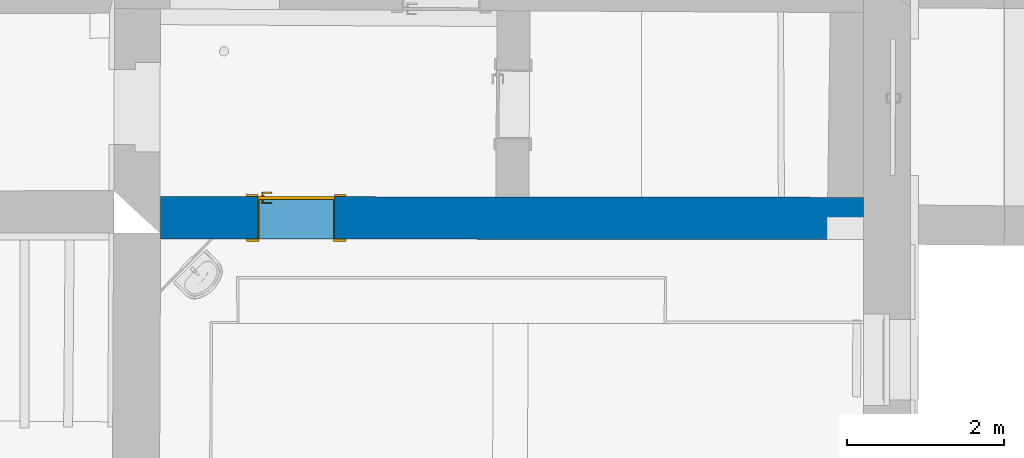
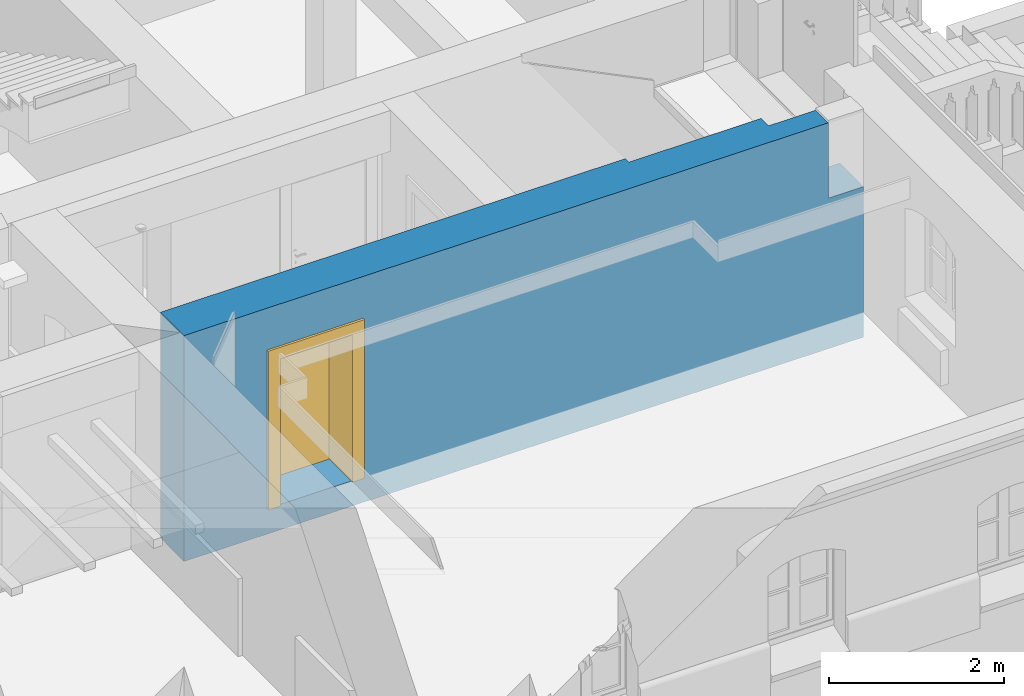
# One storey, part 104 of 196: 1 door, 1 wall, 1 opening.
"""IFC2X3 building model written with IfcOpenShell, lengths in metres."""

from ifc_helpers import new_model, entity, si_unit, converted_unit, derived_unit, money_unit, direction, frame, origin_with_axes, origin_2d_with_axis, place, context, subcontext, project, spatial, polyline, rectangle, outline, extrude, boolean, open_shell, faceted_brep, surface_model, material, type_object, element, fill, save


model = new_model("IFC2X3")

# Units and contexts
model_context = context("Model", 3, precision=1e-05, world=origin_with_axes(), true_north=direction((0.0, 1.0)))
body_context = subcontext(model_context, "Body", "Model", "MODEL_VIEW")
ifc_project = project(units=[si_unit("LENGTHUNIT", "METRE"), si_unit("AREAUNIT", "SQUARE_METRE"), si_unit("VOLUMEUNIT", "CUBIC_METRE"), converted_unit("PLANEANGLEUNIT", "DEGREE", entity("IfcPlaneAngleMeasure", 0.0174532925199), si_unit("PLANEANGLEUNIT", "RADIAN"), dimensions=[0, 0, 0, 0, 0, 0, 0]), money_unit("EUR"), converted_unit("TIMEUNIT", "Year", entity("IfcTimeMeasure", 31556926.0), si_unit("TIMEUNIT", "SECOND"), dimensions=[0, 0, 1, 0, 0, 0, 0]), si_unit("MASSUNIT", "GRAM", prefix="KILO"), si_unit("THERMODYNAMICTEMPERATUREUNIT", "DEGREE_CELSIUS"), si_unit("LUMINOUSINTENSITYUNIT", "LUMEN"), si_unit("ENERGYUNIT", "JOULE", prefix="MEGA"), derived_unit("THERMALCONDUCTANCEUNIT", [(si_unit("POWERUNIT", "WATT"), 1), (si_unit("LENGTHUNIT", "METRE"), -1), (si_unit("THERMODYNAMICTEMPERATUREUNIT", "KELVIN"), -1)]), derived_unit("SPECIFICHEATCAPACITYUNIT", [(si_unit("ENERGYUNIT", "JOULE"), 1), (si_unit("MASSUNIT", "GRAM", prefix="KILO"), -1), (si_unit("THERMODYNAMICTEMPERATUREUNIT", "KELVIN"), -1)]), derived_unit("MASSDENSITYUNIT", [(si_unit("MASSUNIT", "GRAM", prefix="KILO"), 1), (si_unit("VOLUMEUNIT", "CUBIC_METRE"), -1)])], contexts=[model_context])

# Site, building, storey
site_placement = place(None, origin_with_axes())
site = spatial("IfcSite", under=ifc_project, at=site_placement, Name="Gelände", CompositionType="ELEMENT")
building_placement = place(site_placement, origin_with_axes())
building = spatial("IfcBuilding", under=site, at=building_placement, Name="Gebäude", CompositionType="ELEMENT")
storey_placement = place(building_placement, frame((0.0, 0.0, -3.0), z_axis=(0.0, 0.0, 1.0), x_axis=(1.0, 0.0, 0.0)))
storey = spatial("IfcBuildingStorey", under=building, at=storey_placement, Name="KELLERGESCHOSS", CompositionType="ELEMENT", Elevation=-3.0)

# Wall, opening, door
ifc_material = material(Name="05_ALLGEMEIN - TRAGENDE BAUTEILE")
wall_type = type_object("IfcWallType", Name="05_ALLGEMEIN - TRAGENDE BAUTEILE 540", PredefinedType="ELEMENTEDWALL")
wall_placement = place(storey_placement, frame((31.0552738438, 16.3450183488, -0.36), z_axis=(0.0, 0.0, 1.0), x_axis=(-0.999999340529, 0.00114845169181, 0.0)))
wall = element("IfcWall", 1, at=wall_placement, inside=storey, type_object=wall_type, material=ifc_material, Name="Wand-039", ObjectType="ELEMENTEDWALL", context=body_context, shape_type="CSG", body=[
    boolean("DIFFERENCE", boolean("DIFFERENCE", extrude(outline(polyline([(-0.547027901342, -0.54), (9.09180847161, -0.54), (9.09180847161, 0.0), (-0.547027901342, 0.0), (-0.547027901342, -0.54)])), origin_with_axes(), (0.0, 0.0, 1.0), 3.15), faceted_brep([(8.49180563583, 0.0, 3.15), (8.49014539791, -0.54, 3.15), (9.09180847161, -0.54, 3.15), (9.09180847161, 0.0, 3.15), (8.49014539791, -0.54, 0.0), (8.49180563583, 0.0, 0.0), (9.09180847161, -0.54, 0.0), (9.09180847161, 0.0, 0.0)], [[[0, 1, 2, 3]], [[4, 1, 0, 5]], [[1, 4, 6, 2]], [[2, 6, 7, 3]], [[5, 0, 3, 7]], [[4, 5, 7, 6]]])), faceted_brep([(-0.462632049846, -0.54, 1.93458586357), (-0.462628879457, -0.54, 1.93513444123), (-0.462628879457, -0.54, 2.1), (0.0, -0.54, 2.1), (0.622056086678, -0.54, 2.1), (0.622056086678, -0.54, 2.23571428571), (0.867958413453, -0.54, 2.23571428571), (0.867958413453, -0.54, 2.39142857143), (1.16755525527, -0.54, 2.39142857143), (1.16755525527, -0.54, 2.54714285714), (1.46715209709, -0.54, 2.54714285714), (1.46715209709, -0.54, 2.70285714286), (1.7667489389, -0.54, 2.70285714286), (1.7667489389, -0.54, 2.85857142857), (2.06634578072, -0.54, 2.85857142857), (2.06634578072, -0.54, 3.01428571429), (2.36594262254, -0.54, 3.01428571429), (2.36594262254, -0.54, 3.15), (-0.547027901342, -0.54, 3.15), (-0.547027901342, -0.54, 0.0), (-0.462628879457, -0.540000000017, 0.0), (-0.462628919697, -0.54, 1.77263035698), (-0.462728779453, -0.289989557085, 2.1), (-0.462724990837, -0.290889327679, 2.1), (-0.462837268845, 0.0, 2.1), (0.0, 0.0, 2.1), (0.0, -0.290286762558, 2.1), (0.621828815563, -0.290686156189, 2.1), (0.621720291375, -0.459650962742, 2.1), (0.62172029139, -0.459650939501, 2.2), (0.62172029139, -0.459650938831, 2.23571428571), (0.868009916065, -0.459809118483, 2.23571428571), (0.868009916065, -0.459809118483, 2.39142857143), (1.1676066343, -0.460001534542, 2.39142857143), (1.1676066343, -0.460001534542, 2.54714285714), (1.46720335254, -0.460193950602, 2.54714285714), (1.46720335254, -0.460193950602, 2.70285714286), (1.76680007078, -0.460386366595, 2.70285714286), (1.76680007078, -0.460386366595, 2.85857142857), (2.06639678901, -0.460578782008, 2.85857142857), (2.06639678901, -0.460578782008, 3.01428571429), (2.36599350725, -0.460771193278, 3.01428571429), (2.36599350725, -0.460771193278, 3.15), (0.0, -0.290286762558, 3.15), (0.0, 0.0, 3.15), (-0.547027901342, 0.0, 3.15), (2.06639678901, -0.460578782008, 3.15), (1.76680007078, -0.460386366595, 3.15), (1.46720335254, -0.460193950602, 3.15), (0.868009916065, -0.459809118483, 3.15), (0.62172029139, -0.459650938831, 3.15), (0.621828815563, -0.290686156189, 3.15), (-0.547027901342, 0.0, 0.0), (-0.462837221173, 0.0, 0.0)], [[[0, 1, 2, 3, 4, 5, 6, 7, 8, 9, 10, 11, 12, 13, 14, 15, 16, 17, 18, 19, 20, 21]], [[1, 0, 22, 23]], [[2, 1, 23]], [[3, 2, 23, 22, 24, 25, 26, 27, 28, 4]], [[5, 4, 28, 29, 30]], [[6, 5, 30, 31]], [[7, 6, 31, 32]], [[8, 7, 32, 33]], [[9, 8, 33, 34]], [[10, 9, 34, 35]], [[11, 10, 35, 36]], [[12, 11, 36, 37]], [[13, 12, 37, 38]], [[14, 13, 38, 39]], [[15, 14, 39, 40]], [[16, 15, 40, 41]], [[42, 17, 16, 41]], [[43, 44, 45, 18, 17, 42, 46, 47, 48, 49, 50, 51]], [[45, 52, 19, 18]], [[53, 20, 19, 52]], [[21, 20, 53, 24]], [[0, 21, 24, 22]], [[24, 53, 52, 45, 44, 25]], [[44, 43, 26, 25]], [[43, 51, 27, 26]], [[51, 50, 30, 29, 28, 27]], [[50, 49, 32, 31, 30]], [[49, 48, 36, 35, 34, 33, 32]], [[48, 47, 38, 37, 36]], [[47, 46, 40, 39, 38]], [[46, 42, 41, 40]]])),
])
opening_placement = place(wall_placement, frame((6.76392358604, 0.0, 0.354200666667), z_axis=(0.0, 0.0, 1.0), x_axis=(1.0, 0.0, 0.0)))
opening = element("IfcOpeningElement", 2, at=opening_placement, cuts=wall, Name="Tür-022", context=body_context, shape_type="SweptSolid", body=[
    extrude(rectangle(XDim=0.978925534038, YDim=2.068825, at=origin_2d_with_axis()), frame((0.0, 0.54, 1.0344125), z_axis=(0.0, -1.0, 0.0), x_axis=(-1.0, 0.0, 0.0)), (0.0, 0.0, 1.0), 1.62),
])
door_style = type_object("IfcDoorStyle", Name="Blockrahmentür 1-Fl 25", ConstructionType="NOTDEFINED", OperationType="SINGLE_SWING_RIGHT", ParameterTakesPrecedence=False, Sizeable=False)
door_placement = place(opening_placement, frame((0.474462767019, 0.0, 0.0), z_axis=(0.0, 0.0, 1.0), x_axis=(-1.0, 0.0, 0.0)))
door = element("IfcDoor", 3, at=door_placement, inside=storey, type_object=door_style, Name="Tür-022", ObjectType="NOTDEFINED", OverallHeight=2.06882, OverallWidth=0.978926, context=body_context, shape_type="SurfaceModel", body=[
    faceted_brep([(0.963925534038, -0.03, 0.0), (0.963925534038, 0.505, 0.0), (0.963925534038, 0.505, 2.068825), (0.963925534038, -0.03, 2.068825), (0.948925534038, -0.03, 0.0), (0.948925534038, 0.505, 0.0), (0.948925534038, 0.505, 2.053825), (0.589562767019, 0.505, 2.053825), (0.474562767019, 0.505, 2.053825), (0.0, 0.505, 2.053825), (0.0, 0.505, 0.0), (-0.015, 0.505, 0.0), (-0.015, 0.505, 2.068825), (-0.015, -0.03, 2.068825), (-0.015, -0.03, 0.0), (0.0, -0.03, 0.0), (0.0, -0.03, 2.053825), (0.474562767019, -0.03, 2.053825), (0.589562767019, -0.03, 2.053825), (0.948925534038, -0.03, 2.053825)], [[[0, 1, 2, 3]], [[4, 5, 1, 0]], [[1, 5, 6, 7, 8, 9, 10, 11, 12, 2]], [[3, 2, 12, 13]], [[0, 3, 13, 14, 15, 16, 17, 18, 19, 4]], [[19, 6, 5, 4]], [[18, 7, 6, 19]], [[17, 8, 7, 18]], [[16, 9, 8, 17]], [[15, 10, 9, 16]], [[14, 11, 10, 15]], [[13, 12, 11, 14]]]),
    surface_model("IfcShellBasedSurfaceModel", [(0.963925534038, 0.505, 0.0), (0.963925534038, 0.57, 0.0), (0.963925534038, 0.57, 2.068825), (0.963925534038, 0.505, 2.068825), (0.963925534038, 0.505, 2.068825), (0.963925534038, 0.57, 2.068825), (0.574562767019, 0.57, 2.068825), (0.489562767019, 0.57, 2.068825), (-0.015, 0.57, 2.068825), (-0.015, 0.57, 2.068825), (-0.015, 0.505, 2.068825), (0.489562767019, 0.505, 2.068825), (0.574562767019, 0.505, 2.068825), (-0.015, 0.505, 2.068825), (-0.015, 0.505, 0.0), (-0.015, 0.57, 0.0)], [open_shell([[[0, 1, 2, 3]], [[4, 5, 1, 0]], [[6, 7, 8, 2]], [[3, 2, 9, 10]], [[10, 11, 12, 4]], [[12, 6, 5, 4]], [[11, 7, 6, 12]], [[13, 8, 7, 11]], [[14, 15, 8, 13]], [[10, 9, 15, 14]]])]),
    faceted_brep([(1.10892553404, -0.03, 0.0), (1.10892553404, 0.0, 0.0), (1.10892553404, 0.0, 2.213825), (1.10892553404, -0.03, 2.213825), (0.963925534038, -0.03, 0.0), (0.963925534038, 0.0, 0.0), (0.963925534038, 0.0, 2.068825), (-0.015, 0.0, 2.068825), (-0.015, 0.0, 0.0), (-0.16, 0.0, 0.0), (-0.16, 0.0, 2.213825), (-0.16, -0.03, 2.213825), (-0.16, -0.03, 0.0), (-0.015, -0.03, 0.0), (-0.015, -0.03, 2.068825), (0.963925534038, -0.03, 2.068825)], [[[0, 1, 2, 3]], [[4, 5, 1, 0]], [[1, 5, 6, 7, 8, 9, 10, 2]], [[3, 2, 10, 11]], [[0, 3, 11, 12, 13, 14, 15, 4]], [[15, 6, 5, 4]], [[14, 7, 6, 15]], [[13, 8, 7, 14]], [[12, 9, 8, 13]], [[11, 10, 9, 12]]]),
    faceted_brep([(1.10892553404, 0.54, 0.0), (1.10892553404, 0.57, 0.0), (1.10892553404, 0.57, 2.213825), (1.10892553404, 0.54, 2.213825), (0.963925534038, 0.54, 0.0), (0.963925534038, 0.57, 0.0), (0.963925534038, 0.57, 2.068825), (-0.015, 0.57, 2.068825), (-0.015, 0.57, 0.0), (-0.16, 0.57, 0.0), (-0.16, 0.57, 2.213825), (-0.16, 0.54, 2.213825), (-0.16, 0.54, 0.0), (-0.015, 0.54, 0.0), (-0.015, 0.54, 2.068825), (0.963925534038, 0.54, 2.068825)], [[[0, 1, 2, 3]], [[4, 5, 1, 0]], [[1, 5, 6, 7, 8, 9, 10, 2]], [[3, 2, 10, 11]], [[0, 3, 11, 12, 13, 14, 15, 4]], [[15, 6, 5, 4]], [[14, 7, 6, 15]], [[13, 8, 7, 14]], [[12, 9, 8, 13]], [[11, 10, 9, 12]]]),
    faceted_brep([(0.963925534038, 0.542, 0.0), (-0.015, 0.542, 0.0), (-0.015, 0.542, 2.068825), (0.963925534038, 0.542, 2.068825), (0.963925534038, 0.505, 0.0), (-0.015, 0.505, 0.0), (-0.015, 0.505, 2.068825), (0.963925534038, 0.505, 2.068825)], [[[0, 1, 2, 3]], [[1, 0, 4, 5]], [[2, 1, 5, 6]], [[3, 2, 6, 7]], [[0, 3, 7, 4]], [[5, 4, 7, 6]]]),
    faceted_brep([(0.0402977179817, 0.465, 1.05647213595), (0.045, 0.465, 1.058), (0.045, 0.485, 1.058), (0.0402977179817, 0.485, 1.05647213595), (0.0373915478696, 0.465, 1.05247213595), (0.0373915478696, 0.465, 1.04752786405), (0.0402977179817, 0.465, 1.04352786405), (0.045, 0.465, 1.042), (0.0497022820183, 0.465, 1.04352786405), (0.0526084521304, 0.465, 1.04752786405), (0.0526084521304, 0.465, 1.05247213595), (0.0497022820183, 0.465, 1.05647213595), (0.0497022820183, 0.485, 1.05647213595), (0.045, 0.487, 1.06), (0.0391221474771, 0.487, 1.05809016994), (0.0373915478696, 0.485, 1.05247213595), (0.0373915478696, 0.485, 1.04752786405), (0.0402977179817, 0.485, 1.04352786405), (0.045, 0.485, 1.042), (0.0497022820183, 0.485, 1.04352786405), (0.0526084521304, 0.485, 1.04752786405), (0.0526084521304, 0.485, 1.05247213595), (0.0508778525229, 0.487, 1.05809016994), (0.045, 0.495, 1.06), (0.0391221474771, 0.495, 1.05809016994), (0.0354894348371, 0.487, 1.05309016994), (0.0354894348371, 0.487, 1.04690983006), (0.0391221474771, 0.487, 1.04190983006), (0.045, 0.487, 1.04), (0.0508778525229, 0.487, 1.04190983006), (0.054510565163, 0.487, 1.04690983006), (0.054510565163, 0.487, 1.05309016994), (0.0508778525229, 0.495, 1.05809016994), (0.054510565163, 0.495, 1.05309016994), (0.054510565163, 0.495, 1.04690983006), (0.0508778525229, 0.495, 1.04190983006), (0.045, 0.495, 1.04), (0.0391221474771, 0.495, 1.04190983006), (0.0354894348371, 0.495, 1.04690983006), (0.0354894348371, 0.495, 1.05309016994)], [[[0, 1, 2, 3]], [[1, 0, 4, 5, 6, 7, 8, 9, 10, 11]], [[1, 11, 12, 2]], [[3, 2, 13, 14]], [[4, 0, 3, 15]], [[5, 4, 15, 16]], [[6, 5, 16, 17]], [[7, 6, 17, 18]], [[8, 7, 18, 19]], [[9, 8, 19, 20]], [[10, 9, 20, 21]], [[11, 10, 21, 12]], [[2, 12, 22, 13]], [[14, 13, 23, 24]], [[15, 3, 14, 25]], [[16, 15, 25, 26]], [[17, 16, 26, 27]], [[18, 17, 27, 28]], [[19, 18, 28, 29]], [[20, 19, 29, 30]], [[21, 20, 30, 31]], [[12, 21, 31, 22]], [[13, 22, 32, 23]], [[23, 32, 33, 34, 35, 36, 37, 38, 39, 24]], [[25, 14, 24, 39]], [[26, 25, 39, 38]], [[27, 26, 38, 37]], [[28, 27, 37, 36]], [[29, 28, 36, 35]], [[30, 29, 35, 34]], [[31, 30, 34, 33]], [[22, 31, 33, 32]]]),
    faceted_brep([(0.0571883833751, 0.495, 1.11759695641), (0.0494435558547, 0.495, 1.12195567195), (0.0405564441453, 0.495, 1.12195567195), (0.0328116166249, 0.495, 1.11759695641), (0.0282, 0.495, 1.11), (0.0225, 0.495, 1.11), (0.0225, 0.495, 0.89), (0.0282, 0.495, 0.89), (0.0328116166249, 0.495, 0.882403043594), (0.0405564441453, 0.495, 0.878044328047), (0.0494435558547, 0.495, 0.878044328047), (0.0571883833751, 0.495, 0.882403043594), (0.0618, 0.495, 0.89), (0.0675, 0.495, 0.89), (0.0675, 0.495, 1.11), (0.0618, 0.495, 1.11), (0.045, 0.495, 0.967425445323), (0.050375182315, 0.495, 0.965143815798), (0.0524678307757, 0.495, 0.959692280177), (0.05, 0.495, 0.9544), (0.05, 0.495, 0.9375), (0.0485355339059, 0.495, 0.933964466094), (0.045, 0.495, 0.9325), (0.0414644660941, 0.495, 0.933964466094), (0.04, 0.495, 0.9375), (0.04, 0.495, 0.9544), (0.0375321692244, 0.495, 0.959692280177), (0.039624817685, 0.495, 0.965143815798), (0.0571883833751, 0.505, 1.11759695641), (0.0494435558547, 0.505, 1.12195567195), (0.0405564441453, 0.505, 1.12195567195), (0.0328116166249, 0.505, 1.11759695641), (0.0282, 0.505, 1.11), (0.0225, 0.505, 1.11), (0.0225, 0.505, 0.89), (0.0282, 0.505, 0.89), (0.0328116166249, 0.505, 0.882403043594), (0.0405564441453, 0.505, 0.878044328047), (0.0494435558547, 0.505, 0.878044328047), (0.0571883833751, 0.505, 0.882403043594), (0.0618, 0.505, 0.89), (0.0675, 0.505, 0.89), (0.0675, 0.505, 1.11), (0.0618, 0.505, 1.11), (0.045, 0.505, 0.967425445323), (0.050375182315, 0.505, 0.965143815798), (0.0524678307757, 0.505, 0.959692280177), (0.05, 0.505, 0.9544), (0.05, 0.505, 0.9375), (0.0485355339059, 0.505, 0.933964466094), (0.045, 0.505, 0.9325), (0.0414644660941, 0.505, 0.933964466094), (0.04, 0.505, 0.9375), (0.04, 0.505, 0.9544), (0.0375321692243, 0.505, 0.959692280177), (0.039624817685, 0.505, 0.965143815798)], [[[0, 1, 2, 3, 4, 5, 6, 7, 8, 9, 10, 11, 12, 13, 14, 15], [16, 17, 18, 19, 20, 21, 22, 23, 24, 25, 26, 27]], [[1, 0, 28, 29]], [[2, 1, 29, 30]], [[3, 2, 30, 31]], [[4, 3, 31, 32]], [[5, 4, 32, 33]], [[6, 5, 33, 34]], [[7, 6, 34, 35]], [[8, 7, 35, 36]], [[9, 8, 36, 37]], [[10, 9, 37, 38]], [[11, 10, 38, 39]], [[12, 11, 39, 40]], [[13, 12, 40, 41]], [[14, 13, 41, 42]], [[15, 14, 42, 43]], [[0, 15, 43, 28]], [[17, 16, 44, 45]], [[18, 17, 45, 46]], [[19, 18, 46, 47]], [[19, 47, 48, 20]], [[20, 48, 49, 21]], [[21, 49, 50, 22]], [[22, 50, 51, 23]], [[23, 51, 52, 24]], [[53, 25, 24, 52]], [[26, 25, 53, 54]], [[27, 26, 54, 55]], [[16, 27, 55, 44]], [[40, 39, 38, 37, 36, 35, 34, 33, 32, 31, 30, 29, 28, 43, 42, 41], [54, 53, 52, 51, 50, 49, 48, 47, 46, 45, 44, 55]]]),
    faceted_brep([(0.159253, 0.465, 1.057158), (0.159253, 0.45, 1.057158), (0.159254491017, 0.45, 1.05719388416), (0.159254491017, 0.465, 1.05719388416), (0.132225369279, 0.465, 1.06432652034), (0.132225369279, 0.45, 1.06432652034), (0.104397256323, 0.45, 1.06706086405), (0.0764912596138, 0.45, 1.06529002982), (0.049232, 0.45, 1.05906), (0.0428294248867, 0.45, 1.05976125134), (0.0373273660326, 0.45, 1.05641280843), (0.0350084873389, 0.45, 1.05040385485), (0.0368348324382, 0.45, 1.04422735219), (0.0420486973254, 0.45, 1.04044577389), (0.0484869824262, 0.45, 1.04062800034), (0.0534786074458, 0.45, 1.04469843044), (0.053458, 0.45, 1.044666), (0.0787467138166, 0.45, 1.05019878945), (0.104589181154, 0.45, 1.05171460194), (0.130351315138, 0.45, 1.04917624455), (0.155401, 0.45, 1.042646), (0.160944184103, 0.45, 1.04356849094), (0.16430572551, 0.45, 1.04807159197), (0.163614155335, 0.45, 1.05364829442), (0.163614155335, 0.465, 1.05364829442), (0.16430572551, 0.465, 1.04807159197), (0.160944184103, 0.465, 1.04356849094), (0.155401, 0.465, 1.042646), (0.130351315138, 0.465, 1.04917624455), (0.104589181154, 0.465, 1.05171460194), (0.0787467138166, 0.465, 1.05019878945), (0.053458, 0.465, 1.044666), (0.0534786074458, 0.465, 1.04469843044), (0.0484869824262, 0.465, 1.04062800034), (0.0420486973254, 0.465, 1.04044577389), (0.0368348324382, 0.465, 1.04422735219), (0.0350084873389, 0.465, 1.05040385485), (0.0373273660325, 0.465, 1.05641280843), (0.0428294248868, 0.465, 1.05976125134), (0.049232, 0.465, 1.05906), (0.0764912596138, 0.465, 1.06529002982), (0.104397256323, 0.465, 1.06706086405)], [[[0, 1, 2, 3]], [[4, 5, 1, 0]], [[1, 5, 6, 7, 8, 9, 10, 11, 12, 13, 14, 15, 16, 17, 18, 19, 20, 21, 22, 23, 2]], [[3, 2, 23, 24]], [[0, 3, 24, 25, 26, 27, 28, 29, 30, 31, 32, 33, 34, 35, 36, 37, 38, 39, 40, 41, 4]], [[41, 6, 5, 4]], [[40, 7, 6, 41]], [[39, 8, 7, 40]], [[38, 9, 8, 39]], [[37, 10, 9, 38]], [[36, 11, 10, 37]], [[35, 12, 11, 36]], [[34, 13, 12, 35]], [[33, 14, 13, 34]], [[32, 15, 14, 33]], [[31, 16, 15, 32]], [[30, 17, 16, 31]], [[29, 18, 17, 30]], [[28, 19, 18, 29]], [[27, 20, 19, 28]], [[26, 21, 20, 27]], [[25, 22, 21, 26]], [[24, 23, 22, 25]]]),
    faceted_brep([(0.0402977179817, 0.582, 1.05647213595), (0.0402977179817, 0.562, 1.05647213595), (0.045, 0.562, 1.058), (0.045, 0.582, 1.058), (0.0373915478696, 0.582, 1.05247213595), (0.0373915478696, 0.562, 1.05247213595), (0.0391221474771, 0.56, 1.05809016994), (0.045, 0.56, 1.06), (0.0497022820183, 0.562, 1.05647213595), (0.0497022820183, 0.582, 1.05647213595), (0.0526084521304, 0.582, 1.05247213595), (0.0526084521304, 0.582, 1.04752786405), (0.0497022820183, 0.582, 1.04352786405), (0.045, 0.582, 1.042), (0.0402977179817, 0.582, 1.04352786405), (0.0373915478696, 0.582, 1.04752786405), (0.0373915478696, 0.562, 1.04752786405), (0.0354894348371, 0.56, 1.05309016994), (0.0391221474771, 0.552, 1.05809016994), (0.045, 0.552, 1.06), (0.0508778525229, 0.56, 1.05809016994), (0.0526084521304, 0.562, 1.05247213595), (0.0526084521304, 0.562, 1.04752786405), (0.0497022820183, 0.562, 1.04352786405), (0.045, 0.562, 1.042), (0.0402977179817, 0.562, 1.04352786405), (0.0354894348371, 0.56, 1.04690983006), (0.035489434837, 0.552, 1.05309016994), (0.035489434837, 0.552, 1.04690983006), (0.0391221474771, 0.552, 1.04190983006), (0.045, 0.552, 1.04), (0.0508778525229, 0.552, 1.04190983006), (0.054510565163, 0.552, 1.04690983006), (0.054510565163, 0.552, 1.05309016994), (0.0508778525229, 0.552, 1.05809016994), (0.054510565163, 0.56, 1.05309016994), (0.054510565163, 0.56, 1.04690983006), (0.0508778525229, 0.56, 1.04190983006), (0.045, 0.56, 1.04), (0.0391221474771, 0.56, 1.04190983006)], [[[0, 1, 2, 3]], [[4, 5, 1, 0]], [[1, 6, 7, 2]], [[3, 2, 8, 9]], [[3, 9, 10, 11, 12, 13, 14, 15, 4, 0]], [[15, 16, 5, 4]], [[5, 17, 6, 1]], [[6, 18, 19, 7]], [[2, 7, 20, 8]], [[9, 8, 21, 10]], [[10, 21, 22, 11]], [[11, 22, 23, 12]], [[12, 23, 24, 13]], [[13, 24, 25, 14]], [[14, 25, 16, 15]], [[16, 26, 17, 5]], [[17, 27, 18, 6]], [[19, 18, 27, 28, 29, 30, 31, 32, 33, 34]], [[7, 19, 34, 20]], [[8, 20, 35, 21]], [[21, 35, 36, 22]], [[22, 36, 37, 23]], [[23, 37, 38, 24]], [[24, 38, 39, 25]], [[25, 39, 26, 16]], [[26, 28, 27, 17]], [[39, 29, 28, 26]], [[38, 30, 29, 39]], [[37, 31, 30, 38]], [[36, 32, 31, 37]], [[35, 33, 32, 36]], [[20, 34, 33, 35]]]),
    faceted_brep([(0.0571883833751, 0.542, 1.11759695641), (0.0494435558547, 0.542, 1.12195567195), (0.0405564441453, 0.542, 1.12195567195), (0.0328116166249, 0.542, 1.11759695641), (0.0282, 0.542, 1.11), (0.0225, 0.542, 1.11), (0.0225, 0.542, 0.89), (0.0282, 0.542, 0.89), (0.0328116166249, 0.542, 0.882403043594), (0.0405564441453, 0.542, 0.878044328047), (0.0494435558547, 0.542, 0.878044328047), (0.0571883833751, 0.542, 0.882403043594), (0.0618, 0.542, 0.89), (0.0675, 0.542, 0.89), (0.0675, 0.542, 1.11), (0.0618, 0.542, 1.11), (0.045, 0.542, 0.967425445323), (0.050375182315, 0.542, 0.965143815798), (0.0524678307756, 0.542, 0.959692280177), (0.05, 0.542, 0.9544), (0.05, 0.542, 0.9375), (0.0485355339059, 0.542, 0.933964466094), (0.045, 0.542, 0.9325), (0.0414644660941, 0.542, 0.933964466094), (0.04, 0.542, 0.9375), (0.04, 0.542, 0.9544), (0.0375321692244, 0.542, 0.959692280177), (0.039624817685, 0.542, 0.965143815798), (0.0494435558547, 0.552, 1.12195567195), (0.0571883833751, 0.552, 1.11759695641), (0.0405564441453, 0.552, 1.12195567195), (0.0328116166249, 0.552, 1.11759695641), (0.0282, 0.552, 1.11), (0.0225, 0.552, 1.11), (0.0225, 0.552, 0.89), (0.0282, 0.552, 0.89), (0.0328116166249, 0.552, 0.882403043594), (0.0405564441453, 0.552, 0.878044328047), (0.0494435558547, 0.552, 0.878044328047), (0.0571883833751, 0.552, 0.882403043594), (0.0618, 0.552, 0.89), (0.0675, 0.552, 0.89), (0.0675, 0.552, 1.11), (0.0618, 0.552, 1.11), (0.045, 0.552, 0.967425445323), (0.050375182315, 0.552, 0.965143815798), (0.0524678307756, 0.552, 0.959692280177), (0.05, 0.552, 0.9544), (0.05, 0.552, 0.9375), (0.0485355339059, 0.552, 0.933964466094), (0.045, 0.552, 0.9325), (0.0414644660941, 0.552, 0.933964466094), (0.04, 0.552, 0.9375), (0.04, 0.552, 0.9544), (0.0375321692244, 0.552, 0.959692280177), (0.039624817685, 0.552, 0.965143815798)], [[[0, 1, 2, 3, 4, 5, 6, 7, 8, 9, 10, 11, 12, 13, 14, 15], [16, 17, 18, 19, 20, 21, 22, 23, 24, 25, 26, 27]], [[28, 1, 0, 29]], [[30, 2, 1, 28]], [[31, 3, 2, 30]], [[32, 4, 3, 31]], [[33, 5, 4, 32]], [[34, 6, 5, 33]], [[35, 7, 6, 34]], [[36, 8, 7, 35]], [[37, 9, 8, 36]], [[38, 10, 9, 37]], [[39, 11, 10, 38]], [[40, 12, 11, 39]], [[41, 13, 12, 40]], [[42, 14, 13, 41]], [[43, 15, 14, 42]], [[29, 0, 15, 43]], [[17, 16, 44, 45]], [[18, 17, 45, 46]], [[19, 18, 46, 47]], [[19, 47, 48, 20]], [[20, 48, 49, 21]], [[21, 49, 50, 22]], [[22, 50, 51, 23]], [[23, 51, 52, 24]], [[53, 25, 24, 52]], [[26, 25, 53, 54]], [[27, 26, 54, 55]], [[16, 27, 55, 44]], [[40, 39, 38, 37, 36, 35, 34, 33, 32, 31, 30, 28, 29, 43, 42, 41], [54, 53, 52, 51, 50, 49, 48, 47, 46, 45, 44, 55]]]),
    faceted_brep([(0.159253, 0.582, 1.057158), (0.159254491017, 0.582, 1.05719388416), (0.159254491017, 0.597, 1.05719388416), (0.159253, 0.597, 1.057158), (0.132225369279, 0.582, 1.06432652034), (0.104397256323, 0.582, 1.06706086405), (0.0764912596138, 0.582, 1.06529002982), (0.049232, 0.582, 1.05906), (0.0428294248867, 0.582, 1.05976125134), (0.0373273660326, 0.582, 1.05641280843), (0.0350084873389, 0.582, 1.05040385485), (0.0368348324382, 0.582, 1.04422735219), (0.0420486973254, 0.582, 1.04044577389), (0.0484869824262, 0.582, 1.04062800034), (0.0534786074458, 0.582, 1.04469843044), (0.053458, 0.582, 1.044666), (0.0787467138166, 0.582, 1.05019878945), (0.104589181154, 0.582, 1.05171460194), (0.130351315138, 0.582, 1.04917624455), (0.155401, 0.582, 1.042646), (0.160944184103, 0.582, 1.04356849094), (0.16430572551, 0.582, 1.04807159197), (0.163614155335, 0.582, 1.05364829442), (0.163614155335, 0.597, 1.05364829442), (0.16430572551, 0.597, 1.04807159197), (0.160944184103, 0.597, 1.04356849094), (0.155401, 0.597, 1.042646), (0.130351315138, 0.597, 1.04917624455), (0.104589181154, 0.597, 1.05171460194), (0.0787467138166, 0.597, 1.05019878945), (0.053458, 0.597, 1.044666), (0.0534786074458, 0.597, 1.04469843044), (0.0484869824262, 0.597, 1.04062800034), (0.0420486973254, 0.597, 1.04044577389), (0.0368348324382, 0.597, 1.04422735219), (0.0350084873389, 0.597, 1.05040385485), (0.0373273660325, 0.597, 1.05641280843), (0.0428294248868, 0.597, 1.05976125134), (0.049232, 0.597, 1.05906), (0.0764912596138, 0.597, 1.06529002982), (0.104397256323, 0.597, 1.06706086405), (0.132225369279, 0.597, 1.06432652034)], [[[0, 1, 2, 3]], [[0, 4, 5, 6, 7, 8, 9, 10, 11, 12, 13, 14, 15, 16, 17, 18, 19, 20, 21, 22, 1]], [[1, 22, 23, 2]], [[3, 2, 23, 24, 25, 26, 27, 28, 29, 30, 31, 32, 33, 34, 35, 36, 37, 38, 39, 40, 41]], [[4, 0, 3, 41]], [[5, 4, 41, 40]], [[6, 5, 40, 39]], [[7, 6, 39, 38]], [[8, 7, 38, 37]], [[9, 8, 37, 36]], [[10, 9, 36, 35]], [[11, 10, 35, 34]], [[12, 11, 34, 33]], [[13, 12, 33, 32]], [[14, 13, 32, 31]], [[15, 14, 31, 30]], [[16, 15, 30, 29]], [[17, 16, 29, 28]], [[18, 17, 28, 27]], [[19, 18, 27, 26]], [[20, 19, 26, 25]], [[21, 20, 25, 24]], [[22, 21, 24, 23]]]),
])
fill(opening, door)

save(model, "model.ifc")
